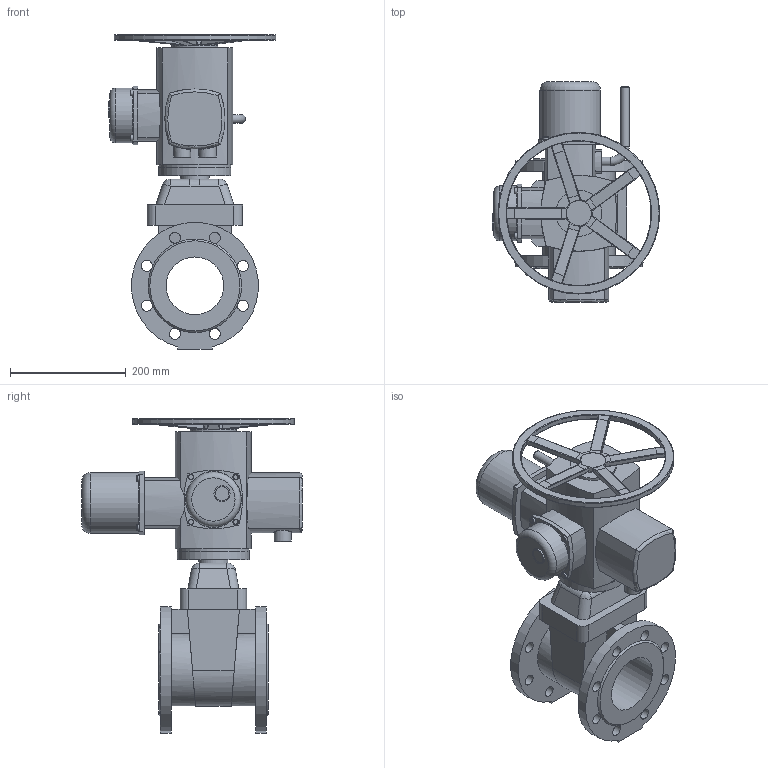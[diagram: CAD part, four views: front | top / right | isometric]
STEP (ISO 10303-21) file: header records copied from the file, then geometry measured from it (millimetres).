
FILE_DESCRIPTION(('STEP AP203'), '1');
FILE_NAME('青溻桄赅 47GVA DN100 PN10_PN16+MT903.Z10', '', ('UNSPECIFIED'), ('UNSPECIFIED'), 'ASCON STEP Converter 1.6', 'ASCON Math Kernel', '');
FILE_SCHEMA(('CONFIG_CONTROL_DESIGN'));
Length unit declared in the file: millimetre
Bounding box: 290 x 382 x 545 mm (x, y, z)
Volume: 10043501.6 mm3; surface area: 711756.9 mm2
Topology: 2 solids, 2 shells, 403 faces, 1007 edges, 616 vertices
Faces by surface type: cylinder 193, plane 169, torus 25, bspline 9, cone 7
Full cylindrical faces by diameter (mm): 8.376 x4, 10 x8, 12 x4, 15 x2, 19 x16, 20 x1, 24 x1, 28 x2, 29.22 x1, 30 x1, 50 x1, 70 x2, 80 x1, 95 x1, 100 x1, 105 x1, 125 x2, 280 x1
Entity records: 20166 total; most frequent: CARTESIAN_POINT 8034, ORIENTED_EDGE 1832, DIRECTION 1751, EDGE_CURVE 916, AXIS2_PLACEMENT_3D 697, VERTEX_POINT 610, EDGE_LOOP 548, FACE_BOUND 415
